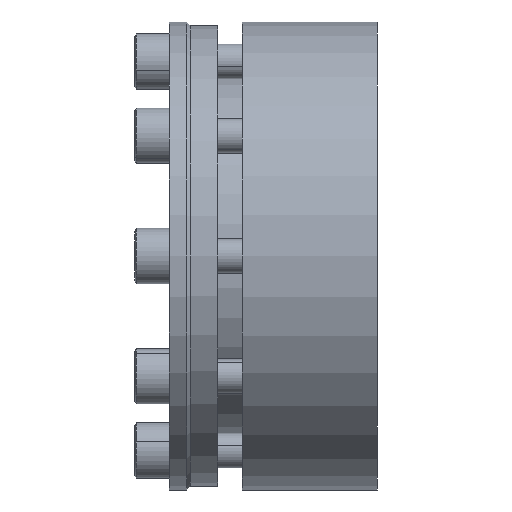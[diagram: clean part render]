
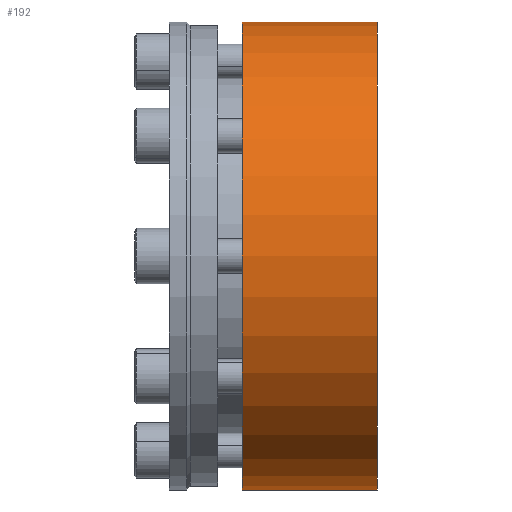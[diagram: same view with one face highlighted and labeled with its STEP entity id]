
A CAD part, front view. The second image highlights one B-rep face of the part: STEP entity #192.
In plain terms, the highlighted cylindrical face has radius 67.5 mm (diameter 135 mm), a partial arc.
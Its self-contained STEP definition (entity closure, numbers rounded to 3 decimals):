
#1 = EDGE_CURVE ( 'NONE', #177, #176, #2309, .T. ) ;
#176 = VERTEX_POINT ( 'NONE', #2620 ) ;
#177 = VERTEX_POINT ( 'NONE', #2619 ) ;
#179 = EDGE_CURVE ( 'NONE', #177, #180, #2618, .T. ) ;
#180 = VERTEX_POINT ( 'NONE', #2614 ) ;
#183 = VERTEX_POINT ( 'NONE', #2608 ) ;
#185 = EDGE_CURVE ( 'NONE', #176, #183, #2606, .T. ) ;
#192 = ADVANCED_FACE ( 'NONE', ( #2644 ), #2642, .T. ) ;
#193 = EDGE_LOOP ( 'NONE', ( #194, #195, #196, #197 ) ) ;
#194 = ORIENTED_EDGE ( 'NONE', *, *, #179, .F. ) ;
#195 = ORIENTED_EDGE ( 'NONE', *, *, #1, .T. ) ;
#196 = ORIENTED_EDGE ( 'NONE', *, *, #185, .T. ) ;
#197 = ORIENTED_EDGE ( 'NONE', *, *, #198, .F. ) ;
#198 = EDGE_CURVE ( 'NONE', #180, #183, #2638, .T. ) ;
#2241 = CARTESIAN_POINT ( 'NONE',  ( 60., 0., 0. ) ) ;
#2306 = DIRECTION ( 'NONE',  ( 0., 0., 1. ) ) ;
#2307 = DIRECTION ( 'NONE',  ( -1., 0., 0. ) ) ;
#2308 = AXIS2_PLACEMENT_3D ( 'NONE', #2241, #2307, #2306 ) ;
#2309 = CIRCLE ( 'NONE', #2308, 67.5 ) ;
#2603 = DIRECTION ( 'NONE',  ( -1., 0., 0. ) ) ;
#2604 = VECTOR ( 'NONE', #2603, 1000. ) ;
#2605 = CARTESIAN_POINT ( 'NONE',  ( 0., 0., 67.5 ) ) ;
#2606 = LINE ( 'NONE', #2605, #2604 ) ;
#2608 = CARTESIAN_POINT ( 'NONE',  ( 21., 0., 67.5 ) ) ;
#2614 = CARTESIAN_POINT ( 'NONE',  ( 21., 0., -67.5 ) ) ;
#2615 = DIRECTION ( 'NONE',  ( -1., 0., 0. ) ) ;
#2616 = VECTOR ( 'NONE', #2615, 1000. ) ;
#2617 = CARTESIAN_POINT ( 'NONE',  ( 0., 0., -67.5 ) ) ;
#2618 = LINE ( 'NONE', #2617, #2616 ) ;
#2619 = CARTESIAN_POINT ( 'NONE',  ( 60., 0., -67.5 ) ) ;
#2620 = CARTESIAN_POINT ( 'NONE',  ( 60., 0., 67.5 ) ) ;
#2634 = DIRECTION ( 'NONE',  ( 0., 0., 1. ) ) ;
#2635 = DIRECTION ( 'NONE',  ( -1., 0., 0. ) ) ;
#2636 = CARTESIAN_POINT ( 'NONE',  ( 21., 0., 0. ) ) ;
#2637 = AXIS2_PLACEMENT_3D ( 'NONE', #2636, #2635, #2634 ) ;
#2638 = CIRCLE ( 'NONE', #2637, 67.5 ) ;
#2639 = DIRECTION ( 'NONE',  ( 0., 0., 1. ) ) ;
#2640 = DIRECTION ( 'NONE',  ( -1., 0., 0. ) ) ;
#2641 = AXIS2_PLACEMENT_3D ( 'NONE', #2643, #2640, #2639 ) ;
#2642 = CYLINDRICAL_SURFACE ( 'NONE', #2641, 67.5 ) ;
#2643 = CARTESIAN_POINT ( 'NONE',  ( 0., 0., 0. ) ) ;
#2644 = FACE_OUTER_BOUND ( 'NONE', #193, .T. ) ;
